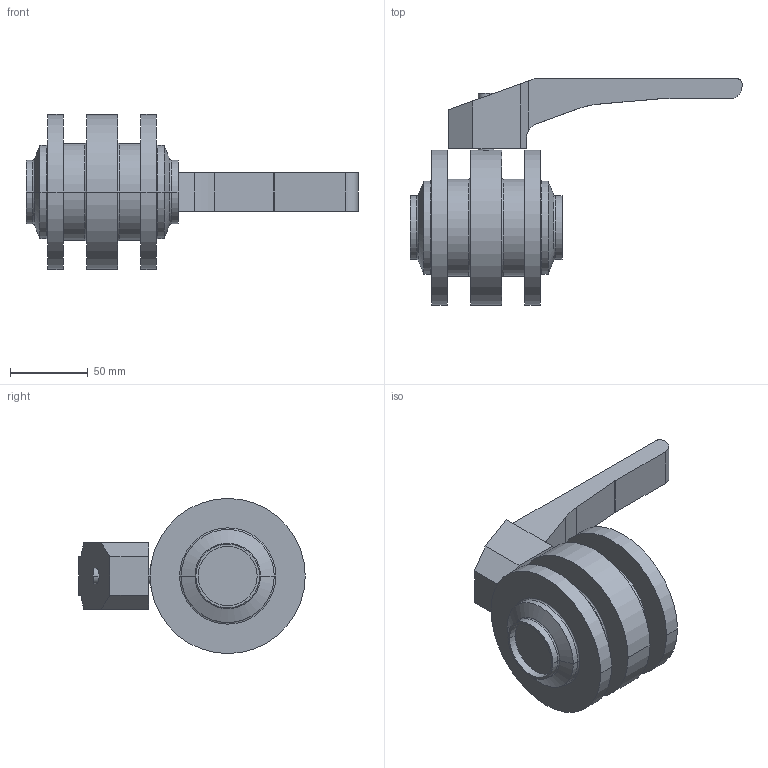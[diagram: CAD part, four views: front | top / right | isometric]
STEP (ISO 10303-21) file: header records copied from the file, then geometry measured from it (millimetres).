
FILE_DESCRIPTION(('OneSpaceDesigner STEP Export'),'2;1');
FILE_NAME('SVS1F-40-H-12S.stp','2007-05-29T11:33:45',(''),(''),'OneSpace Designer STEP processor for AP214 (Solid Model)','OneSpace Modeling 15.00 06-Feb-2007 (C) CoCreate Software GmbH','');
FILE_SCHEMA(('AUTOMOTIVE_DESIGN { 1 0 10303 214 1 1 1 1 }'));
Length unit declared in the file: millimetre
Products named in the file (3): SVS1F-40-H-12S; Handhebel-SV-40-100.1; SVS1F-40-H-12S-vereint
Assembly tree (2 placements, depth 2):
  SVS1F-40-H-12S-vereint
    Handhebel-SV-40-100.1
    SVS1F-40-H-12S
Bounding box: 214 x 146 x 100 mm (x, y, z)
Volume: 579742.2 mm3; surface area: 78667.5 mm2
Topology: 2 solids, 2 shells, 76 faces, 167 edges, 104 vertices
Faces by surface type: cylinder 31, plane 29, torus 12, cone 4
Entity records: 2296 total; most frequent: CARTESIAN_POINT 687, ORIENTED_EDGE 334, DIRECTION 303, EDGE_CURVE 167, AXIS2_PLACEMENT_3D 113, VERTEX_POINT 104, EDGE_LOOP 85, VECTOR 77
